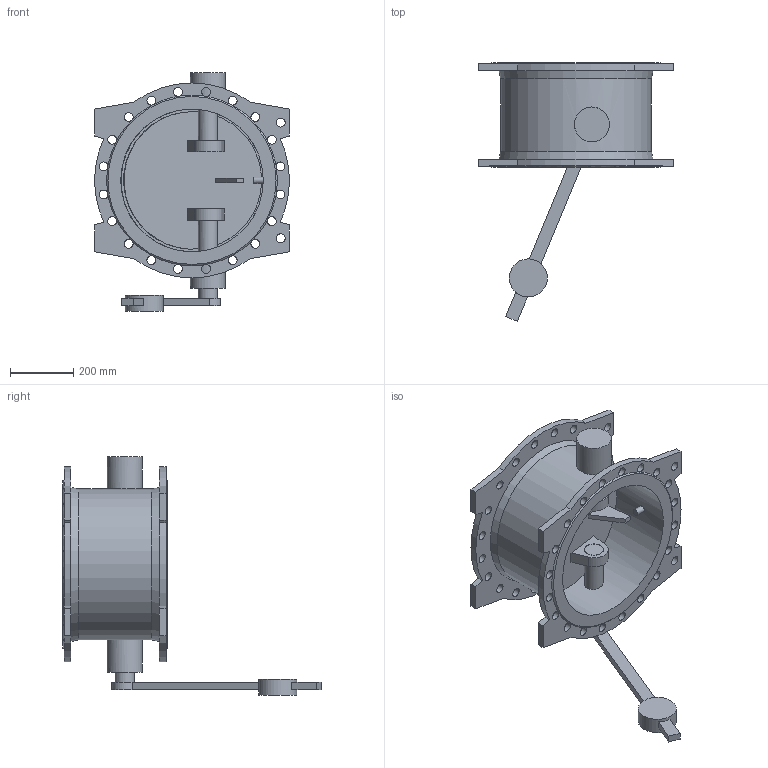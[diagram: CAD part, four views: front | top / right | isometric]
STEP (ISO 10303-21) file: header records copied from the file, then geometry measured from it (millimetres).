
FILE_DESCRIPTION(('STEP AP203'), '1');
FILE_NAME('Êëàïàí 015F.PV DN450 PN10 ñ ïðîòèâîâåñîì', '', ('UNSPECIFIED'), ('UNSPECIFIED'), 'ASCON STEP Converter 1.6', 'ASCON Math Kernel', '');
FILE_SCHEMA(('CONFIG_CONTROL_DESIGN'));
Length unit declared in the file: millimetre
Bounding box: 615 x 815 x 753 mm (x, y, z)
Volume: 18633197.1 mm3; surface area: 2271051.4 mm2
Topology: 1 solids, 1 shells, 136 faces, 468 edges, 311 vertices
Faces by surface type: cylinder 66, plane 63, cone 4, extrusion 2, bspline 1
Full cylindrical faces by diameter (mm): 20 x1, 28 x44, 60 x3, 62 x2, 110 x2, 120 x1, 450 x1, 476 x1
Entity records: 8770 total; most frequent: CARTESIAN_POINT 3575, DIRECTION 834, ORIENTED_EDGE 808, EDGE_CURVE 404, AXIS2_PLACEMENT_3D 351, VERTEX_POINT 310, EDGE_LOOP 270, CIRCLE 217
